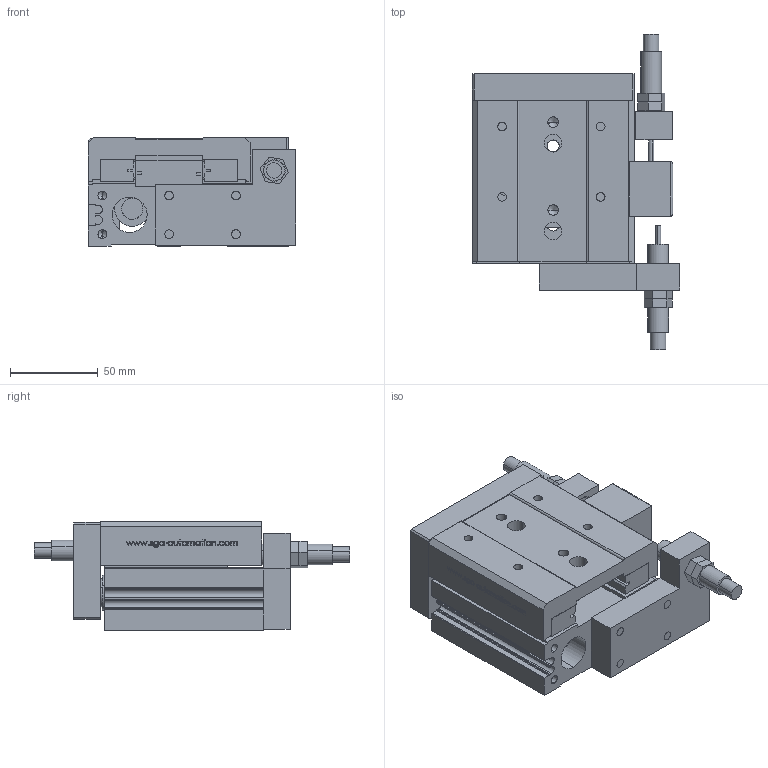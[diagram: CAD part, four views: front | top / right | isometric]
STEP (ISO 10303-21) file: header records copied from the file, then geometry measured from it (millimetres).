
FILE_DESCRIPTION (( 'STEP AP203' ), '1' );
FILE_NAME ('GDX 25-10.STEP', '2013-02-28T08:18:26', ( 'Conseil Régional Haute-Normandie' ), ( 'Conseil Régional Haute-Normandie' ), 'SwSTEP 2.0', 'SolidWorks 2010', '' );
FILE_SCHEMA (( 'CONFIG_CONTROL_DESIGN' ));
Length unit declared in the file: millimetre
Products named in the file (18): Pièce12 GDX25-10_Default; Pièce1 GDX25-10_Default; Pièce14 GDX25-10_Default; Pièce11 GDX25-10_Default; Pièce7 amortisseur GDX25-10_Default; Pièce17 GDX 25-10_Default; Pièce3 GDX25-10_Default; GDX 25-10; Pièce9 GDX25-10_Default; Pièce15 GDX25-10_Default; Pièce12.2 GDX25-10_Default; Pièce5 GDX25-10_Default; Pièce4 GDX25-10_Default; Pièce10 GDX25-10_Default; Pièce8 tige amortisseur GDX25-10_Default; Pièce6 boulon GDX25-10_Default; Pièce16 GDX 25-10_Default; Pièce2 GDX25-10 Vis pièce1_Default
Assembly tree (35 placements, depth 2):
  GDX 25-10
    Pièce6 boulon GDX25-10_Default  x4
    Pièce2 GDX25-10 Vis pièce1_Default  x2
    Pièce5 GDX25-10_Default
    Pièce17 GDX 25-10_Default  x8
    Pièce9 GDX25-10_Default
    Pièce8 tige amortisseur GDX25-10_Default  x2
    Pièce10 GDX25-10_Default  x2
    Pièce11 GDX25-10_Default  x2
    Pièce16 GDX 25-10_Default  x4
    Pièce15 GDX25-10_Default
    Pièce3 GDX25-10_Default
    Pièce7 amortisseur GDX25-10_Default  x2
    Pièce12 GDX25-10_Default
    Pièce1 GDX25-10_Default
    Pièce4 GDX25-10_Default
    Pièce12.2 GDX25-10_Default
    Pièce14 GDX25-10_Default
Bounding box: 118 x 179.43 x 62 mm (x, y, z)
Volume: 574049.5 mm3; surface area: 158213 mm2
Topology: 37 solids, 37 shells, 852 faces, 2116 edges, 1368 vertices
Faces by surface type: plane 418, cylinder 235, bspline 133, cone 58, torus 8
Entity records: 34167 total; most frequent: CARTESIAN_POINT 15156, ORIENTED_EDGE 3578, DIRECTION 3069, EDGE_CURVE 1789, VERTEX_POINT 1180, LINE 1143, VECTOR 1143, AXIS2_PLACEMENT_3D 963
